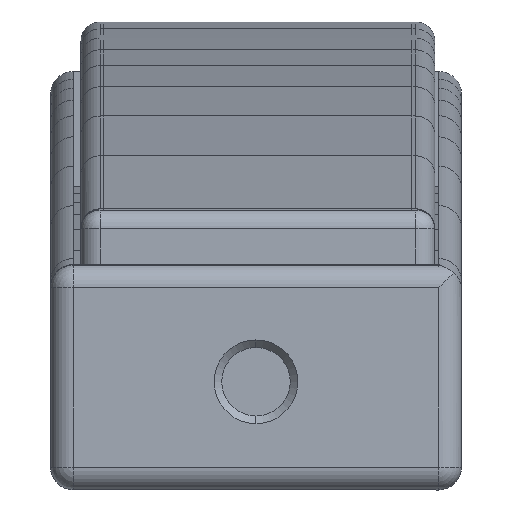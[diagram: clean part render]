
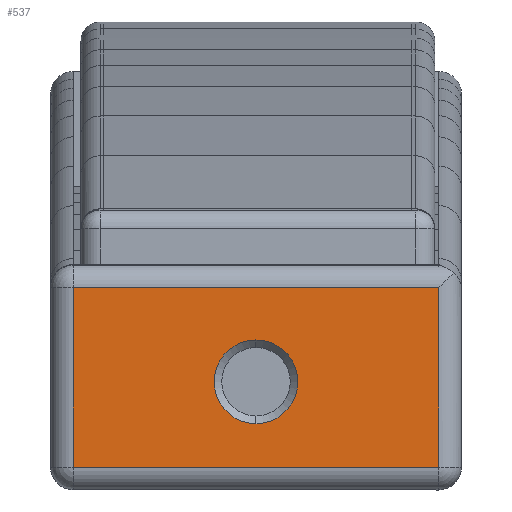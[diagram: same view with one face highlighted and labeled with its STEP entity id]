
A CAD part, front view. The second image highlights one B-rep face of the part: STEP entity #537.
In plain terms, the highlighted planar face has unit normal (0, -1, 0).
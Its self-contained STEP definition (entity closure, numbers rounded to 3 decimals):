
#506 = EDGE_LOOP ( 'NONE', ( #536, #532, #523, #520 ) ) ;
#515 = EDGE_CURVE ( 'NONE', #522, #534, #2064, .T. ) ;
#516 = EDGE_LOOP ( 'NONE', ( #554, #555 ) ) ;
#520 = ORIENTED_EDGE ( 'NONE', *, *, #515, .T. ) ;
#521 = VERTEX_POINT ( 'NONE', #2050 ) ;
#522 = VERTEX_POINT ( 'NONE', #2049 ) ;
#523 = ORIENTED_EDGE ( 'NONE', *, *, #524, .T. ) ;
#524 = EDGE_CURVE ( 'NONE', #521, #522, #2048, .T. ) ;
#530 = EDGE_CURVE ( 'NONE', #535, #521, #2041, .T. ) ;
#531 = EDGE_CURVE ( 'NONE', #534, #535, #2090, .T. ) ;
#532 = ORIENTED_EDGE ( 'NONE', *, *, #530, .T. ) ;
#534 = VERTEX_POINT ( 'NONE', #2082 ) ;
#535 = VERTEX_POINT ( 'NONE', #2081 ) ;
#536 = ORIENTED_EDGE ( 'NONE', *, *, #531, .T. ) ;
#537 = ADVANCED_FACE ( 'NONE', ( #2080, #2079 ), #2078, .T. ) ;
#551 = EDGE_CURVE ( 'NONE', #908, #911, #2116, .T. ) ;
#554 = ORIENTED_EDGE ( 'NONE', *, *, #910, .T. ) ;
#555 = ORIENTED_EDGE ( 'NONE', *, *, #551, .T. ) ;
#908 = VERTEX_POINT ( 'NONE', #2757 ) ;
#910 = EDGE_CURVE ( 'NONE', #911, #908, #2756, .T. ) ;
#911 = VERTEX_POINT ( 'NONE', #2751 ) ;
#2041 = LINE ( 'NONE', #2093, #2092 ) ;
#2045 = DIRECTION ( 'NONE',  ( 1., 0., 0. ) ) ;
#2046 = VECTOR ( 'NONE', #2045, 1000. ) ;
#2047 = CARTESIAN_POINT ( 'NONE',  ( -161.653, -331.285, -48. ) ) ;
#2048 = LINE ( 'NONE', #2047, #2046 ) ;
#2049 = CARTESIAN_POINT ( 'NONE',  ( -108.467, -331.285, -48. ) ) ;
#2050 = CARTESIAN_POINT ( 'NONE',  ( -155.653, -331.285, -48. ) ) ;
#2061 = DIRECTION ( 'NONE',  ( 0., 0., 1. ) ) ;
#2062 = VECTOR ( 'NONE', #2061, 1000. ) ;
#2063 = CARTESIAN_POINT ( 'NONE',  ( -108.467, -331.285, 54. ) ) ;
#2064 = LINE ( 'NONE', #2063, #2062 ) ;
#2074 = DIRECTION ( 'NONE',  ( 1., 0., 0. ) ) ;
#2075 = DIRECTION ( 'NONE',  ( 0., -1., 0. ) ) ;
#2076 = CARTESIAN_POINT ( 'NONE',  ( -161.653, -331.285, -54. ) ) ;
#2077 = AXIS2_PLACEMENT_3D ( 'NONE', #2076, #2075, #2074 ) ;
#2078 = PLANE ( 'NONE',  #2077 ) ;
#2079 = FACE_BOUND ( 'NONE', #516, .T. ) ;
#2080 = FACE_OUTER_BOUND ( 'NONE', #506, .T. ) ;
#2081 = CARTESIAN_POINT ( 'NONE',  ( -155.653, -331.285, 48. ) ) ;
#2082 = CARTESIAN_POINT ( 'NONE',  ( -108.467, -331.285, 48. ) ) ;
#2087 = DIRECTION ( 'NONE',  ( -1., 0., 0. ) ) ;
#2088 = VECTOR ( 'NONE', #2087, 1000. ) ;
#2089 = CARTESIAN_POINT ( 'NONE',  ( -161.653, -331.285, 48. ) ) ;
#2090 = LINE ( 'NONE', #2089, #2088 ) ;
#2091 = DIRECTION ( 'NONE',  ( 0., 0., -1. ) ) ;
#2092 = VECTOR ( 'NONE', #2091, 1000. ) ;
#2093 = CARTESIAN_POINT ( 'NONE',  ( -155.653, -331.285, -54. ) ) ;
#2111 = DIRECTION ( 'NONE',  ( 1., 0., 0. ) ) ;
#2113 = DIRECTION ( 'NONE',  ( 0., 1., 0. ) ) ;
#2114 = CARTESIAN_POINT ( 'NONE',  ( -133.203, -331.285, 0. ) ) ;
#2115 = AXIS2_PLACEMENT_3D ( 'NONE', #2114, #2113, #2111 ) ;
#2116 = CIRCLE ( 'NONE', #2115, 11. ) ;
#2751 = CARTESIAN_POINT ( 'NONE',  ( -122.203, -331.285, 0. ) ) ;
#2752 = DIRECTION ( 'NONE',  ( 1., 0., 0. ) ) ;
#2753 = DIRECTION ( 'NONE',  ( 0., 1., 0. ) ) ;
#2754 = CARTESIAN_POINT ( 'NONE',  ( -133.203, -331.285, 0. ) ) ;
#2755 = AXIS2_PLACEMENT_3D ( 'NONE', #2754, #2753, #2752 ) ;
#2756 = CIRCLE ( 'NONE', #2755, 11. ) ;
#2757 = CARTESIAN_POINT ( 'NONE',  ( -144.203, -331.285, 0. ) ) ;
